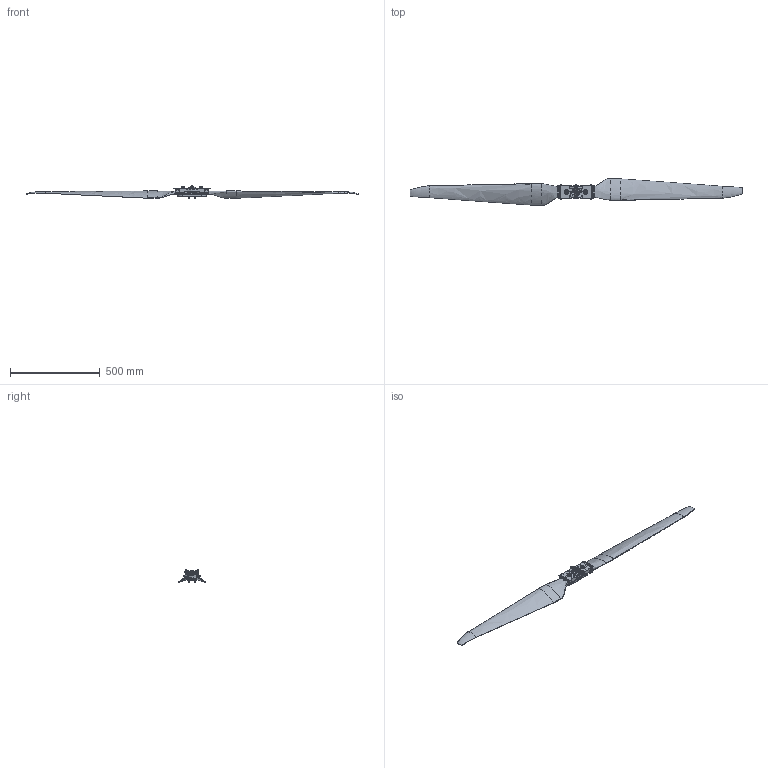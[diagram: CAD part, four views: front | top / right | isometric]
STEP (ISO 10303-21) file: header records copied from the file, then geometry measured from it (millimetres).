
FILE_DESCRIPTION (( 'STEP AP214' ), '1' );
FILE_NAME ('MFC 73X23-CW-淏蚾-3D-2026.0126.STEP', '2026-03-18T02:43:01', ( '' ), ( '' ), 'SwSTEP 2.0', 'SolidWorks 2021', '' );
FILE_SCHEMA (( 'AUTOMOTIVE_DESIGN' ));
Length unit declared in the file: millimetre
Products named in the file (15): 111350260AB; 111350261AB; MFC 73X23-CW-淏蚾-3D-2026.0126; 104130300AA; 104110712AA; 111350262AB; 104150105AA; 124410519AB; 104110181AA^MFC 73X23-CW-淏蚾-3D-2026.0126; 111390198AB-俋楷; 124400077BB; 104120032AA; 171070569AB; 104110890AA; 104150104AA
Assembly tree (33 placements, depth 2):
  MFC 73X23-CW-淏蚾-3D-2026.0126
    111350261AB
    104150104AA  x2
    124400077BB  x4
    104130300AA  x4
    111390198AB-俋楷  x2
    104110712AA  x4
    171070569AB
    104150105AA
    111350262AB  x2
    104110890AA  x2
    124410519AB  x4
    111350260AB
    104120032AA
    104110181AA^MFC 73X23-CW-淏蚾-3D-2026.0126  x4
Bounding box: 1854.59 x 150.32 x 70.91 mm (x, y, z)
Volume: 1449042.8 mm3; surface area: 497439.4 mm2
Topology: 43 solids, 43 shells, 3521 faces, 9399 edges, 6066 vertices
Faces by surface type: plane 1899, cylinder 1037, cone 239, bspline 228, torus 102, sphere 16
Entity records: 203332 total; most frequent: CARTESIAN_POINT 158984, ORIENTED_EDGE 9376, DIRECTION 8540, EDGE_CURVE 4688, VERTEX_POINT 3002, AXIS2_PLACEMENT_3D 2982, LINE 2576, VECTOR 2576
